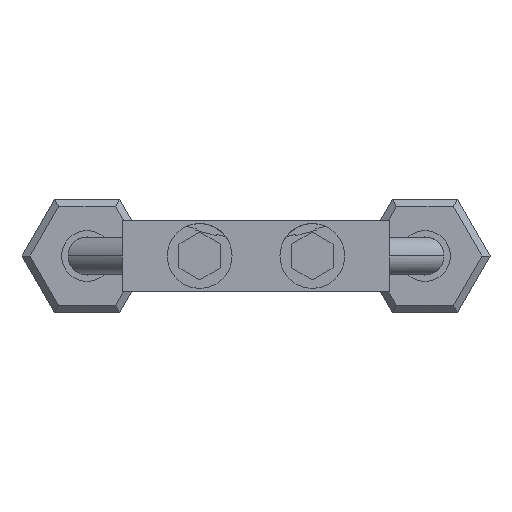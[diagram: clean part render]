
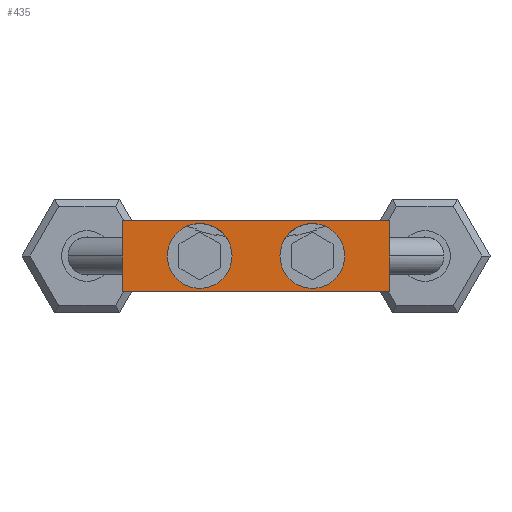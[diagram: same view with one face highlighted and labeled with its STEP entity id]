
A CAD part, left-side view. The second image highlights one B-rep face of the part: STEP entity #435.
In plain terms, the highlighted planar face has unit normal (-1, 0, 0).
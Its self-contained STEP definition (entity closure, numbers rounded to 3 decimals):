
#370 = ORIENTED_EDGE ( 'NONE', *, *, #944, .T. ) ;
#434 = EDGE_CURVE ( 'NONE', #441, #438, #1881, .T. ) ;
#435 = ADVANCED_FACE ( 'NONE', ( #1876, #1875, #1874 ), #1873, .F. ) ;
#436 = EDGE_LOOP ( 'NONE', ( #370, #947, #939, #938 ) ) ;
#438 = VERTEX_POINT ( 'NONE', #1864 ) ;
#440 = EDGE_CURVE ( 'NONE', #438, #441, #1863, .T. ) ;
#441 = VERTEX_POINT ( 'NONE', #1924 ) ;
#453 = VERTEX_POINT ( 'NONE', #1900 ) ;
#534 = VERTEX_POINT ( 'NONE', #2082 ) ;
#536 = EDGE_CURVE ( 'NONE', #453, #534, #2080, .T. ) ;
#933 = ORIENTED_EDGE ( 'NONE', *, *, #536, .T. ) ;
#934 = ORIENTED_EDGE ( 'NONE', *, *, #936, .T. ) ;
#935 = EDGE_CURVE ( 'NONE', #940, #945, #2734, .T. ) ;
#936 = EDGE_CURVE ( 'NONE', #534, #453, #2727, .T. ) ;
#937 = EDGE_LOOP ( 'NONE', ( #1004, #1007 ) ) ;
#938 = ORIENTED_EDGE ( 'NONE', *, *, #935, .T. ) ;
#939 = ORIENTED_EDGE ( 'NONE', *, *, #942, .F. ) ;
#940 = VERTEX_POINT ( 'NONE', #2722 ) ;
#941 = EDGE_LOOP ( 'NONE', ( #933, #934 ) ) ;
#942 = EDGE_CURVE ( 'NONE', #940, #948, #2721, .T. ) ;
#943 = EDGE_CURVE ( 'NONE', #948, #946, #2717, .T. ) ;
#944 = EDGE_CURVE ( 'NONE', #945, #946, #2713, .T. ) ;
#945 = VERTEX_POINT ( 'NONE', #2775 ) ;
#946 = VERTEX_POINT ( 'NONE', #2774 ) ;
#947 = ORIENTED_EDGE ( 'NONE', *, *, #943, .F. ) ;
#948 = VERTEX_POINT ( 'NONE', #2773 ) ;
#1004 = ORIENTED_EDGE ( 'NONE', *, *, #434, .F. ) ;
#1007 = ORIENTED_EDGE ( 'NONE', *, *, #440, .F. ) ;
#1861 = CARTESIAN_POINT ( 'NONE',  ( 0., 0., 4. ) ) ;
#1862 = AXIS2_PLACEMENT_3D ( 'NONE', #1861, #1926, #1925 ) ;
#1863 = CIRCLE ( 'NONE', #1862, 2.3 ) ;
#1864 = CARTESIAN_POINT ( 'NONE',  ( 0., 0., 6.3 ) ) ;
#1869 = DIRECTION ( 'NONE',  ( 0., 0., -1. ) ) ;
#1870 = DIRECTION ( 'NONE',  ( 1., 0., 0. ) ) ;
#1871 = CARTESIAN_POINT ( 'NONE',  ( 0., 2.5, -9.5 ) ) ;
#1872 = AXIS2_PLACEMENT_3D ( 'NONE', #1871, #1870, #1869 ) ;
#1873 = PLANE ( 'NONE',  #1872 ) ;
#1874 = FACE_BOUND ( 'NONE', #937, .T. ) ;
#1875 = FACE_BOUND ( 'NONE', #941, .T. ) ;
#1876 = FACE_OUTER_BOUND ( 'NONE', #436, .T. ) ;
#1877 = DIRECTION ( 'NONE',  ( 0., 0., -1. ) ) ;
#1878 = DIRECTION ( 'NONE',  ( -1., 0., 0. ) ) ;
#1879 = CARTESIAN_POINT ( 'NONE',  ( 0., 0., 4. ) ) ;
#1880 = AXIS2_PLACEMENT_3D ( 'NONE', #1879, #1878, #1877 ) ;
#1881 = CIRCLE ( 'NONE', #1880, 2.3 ) ;
#1900 = CARTESIAN_POINT ( 'NONE',  ( 0., 0., -6.3 ) ) ;
#1924 = CARTESIAN_POINT ( 'NONE',  ( 0., 0., 1.7 ) ) ;
#1925 = DIRECTION ( 'NONE',  ( 0., 0., -1. ) ) ;
#1926 = DIRECTION ( 'NONE',  ( -1., 0., 0. ) ) ;
#2076 = DIRECTION ( 'NONE',  ( 0., 0., -1. ) ) ;
#2077 = DIRECTION ( 'NONE',  ( 1., 0., 0. ) ) ;
#2078 = CARTESIAN_POINT ( 'NONE',  ( 0., 0., -4. ) ) ;
#2079 = AXIS2_PLACEMENT_3D ( 'NONE', #2078, #2077, #2076 ) ;
#2080 = CIRCLE ( 'NONE', #2079, 2.3 ) ;
#2082 = CARTESIAN_POINT ( 'NONE',  ( 0., 0., -1.7 ) ) ;
#2712 = CARTESIAN_POINT ( 'NONE',  ( 0., -2.5, -9.5 ) ) ;
#2713 = LINE ( 'NONE', #2712, #2777 ) ;
#2714 = DIRECTION ( 'NONE',  ( 0., -1., 0. ) ) ;
#2715 = VECTOR ( 'NONE', #2714, 1000. ) ;
#2716 = CARTESIAN_POINT ( 'NONE',  ( 0., 2.5, 9.5 ) ) ;
#2717 = LINE ( 'NONE', #2716, #2715 ) ;
#2718 = DIRECTION ( 'NONE',  ( 0., 0., 1. ) ) ;
#2719 = VECTOR ( 'NONE', #2718, 1000. ) ;
#2720 = CARTESIAN_POINT ( 'NONE',  ( 0., 2.5, -9.5 ) ) ;
#2721 = LINE ( 'NONE', #2720, #2719 ) ;
#2722 = CARTESIAN_POINT ( 'NONE',  ( 0., 2.5, -9.5 ) ) ;
#2723 = DIRECTION ( 'NONE',  ( 0., 0., -1. ) ) ;
#2724 = DIRECTION ( 'NONE',  ( 1., 0., 0. ) ) ;
#2725 = CARTESIAN_POINT ( 'NONE',  ( 0., 0., -4. ) ) ;
#2726 = AXIS2_PLACEMENT_3D ( 'NONE', #2725, #2724, #2723 ) ;
#2727 = CIRCLE ( 'NONE', #2726, 2.3 ) ;
#2728 = DIRECTION ( 'NONE',  ( 0., -1., 0. ) ) ;
#2729 = VECTOR ( 'NONE', #2728, 1000. ) ;
#2730 = CARTESIAN_POINT ( 'NONE',  ( 0., 2.5, -9.5 ) ) ;
#2734 = LINE ( 'NONE', #2730, #2729 ) ;
#2773 = CARTESIAN_POINT ( 'NONE',  ( 0., 2.5, 9.5 ) ) ;
#2774 = CARTESIAN_POINT ( 'NONE',  ( 0., -2.5, 9.5 ) ) ;
#2775 = CARTESIAN_POINT ( 'NONE',  ( 0., -2.5, -9.5 ) ) ;
#2776 = DIRECTION ( 'NONE',  ( 0., 0., 1. ) ) ;
#2777 = VECTOR ( 'NONE', #2776, 1000. ) ;
